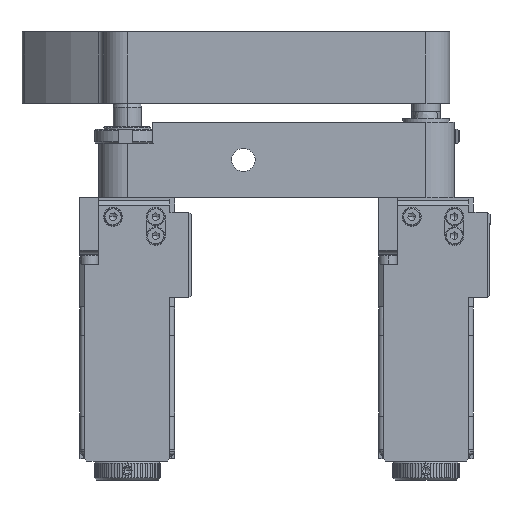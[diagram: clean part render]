
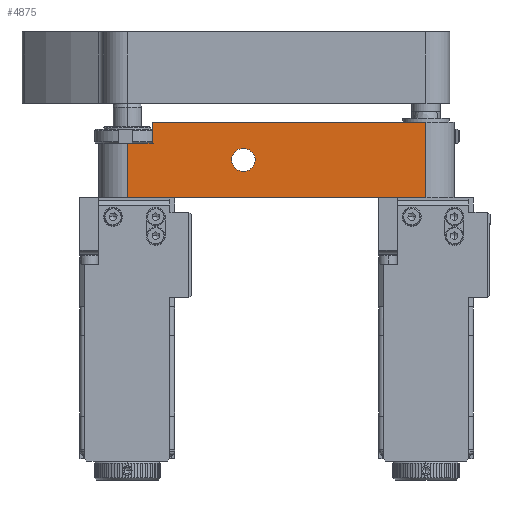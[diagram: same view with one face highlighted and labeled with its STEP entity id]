
A CAD part, left-side view. The second image highlights one B-rep face of the part: STEP entity #4875.
In plain terms, the highlighted planar face has unit normal (-1, 0, 0).
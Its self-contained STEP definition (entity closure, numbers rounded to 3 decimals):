
#332 = DIRECTION ( 'NONE',  ( 0., -1., 0. ) ) ;
#333 = VECTOR ( 'NONE', #332, 1000. ) ;
#334 = CARTESIAN_POINT ( 'NONE',  ( -1.074, -9.038, 0. ) ) ;
#335 = LINE ( 'NONE', #334, #333 ) ;
#379 = CARTESIAN_POINT ( 'NONE',  ( -1.074, 44.981, 11.5 ) ) ;
#380 = DIRECTION ( 'NONE',  ( 0., 1., 0. ) ) ;
#381 = VECTOR ( 'NONE', #380, 1000. ) ;
#382 = CARTESIAN_POINT ( 'NONE',  ( -1.074, -9.038, 11.5 ) ) ;
#383 = LINE ( 'NONE', #382, #381 ) ;
#567 = LINE ( 'NONE', #633, #632 ) ;
#603 = CARTESIAN_POINT ( 'NONE',  ( -1.074, 42.671, 11.5 ) ) ;
#631 = DIRECTION ( 'NONE',  ( 0., 1., 0. ) ) ;
#632 = VECTOR ( 'NONE', #631, 1000. ) ;
#633 = CARTESIAN_POINT ( 'NONE',  ( -1.074, -9.038, 11.5 ) ) ;
#645 = CARTESIAN_POINT ( 'NONE',  ( -1.074, 42.671, 16. ) ) ;
#667 = DIRECTION ( 'NONE',  ( 0., 0., -1. ) ) ;
#668 = VECTOR ( 'NONE', #667, 1000. ) ;
#669 = CARTESIAN_POINT ( 'NONE',  ( -1.074, 42.671, 16. ) ) ;
#670 = LINE ( 'NONE', #669, #668 ) ;
#672 = DIRECTION ( 'NONE',  ( 0., 1., 0. ) ) ;
#673 = VECTOR ( 'NONE', #672, 1000. ) ;
#674 = CARTESIAN_POINT ( 'NONE',  ( -1.074, -15.038, 16. ) ) ;
#675 = LINE ( 'NONE', #674, #673 ) ;
#723 = CARTESIAN_POINT ( 'NONE',  ( -1.074, -15.038, 16. ) ) ;
#1262 = CARTESIAN_POINT ( 'NONE',  ( -1.074, -15.038, 0. ) ) ;
#1290 = DIRECTION ( 'NONE',  ( 0., -1., 0. ) ) ;
#1291 = VECTOR ( 'NONE', #1290, 1000. ) ;
#1292 = CARTESIAN_POINT ( 'NONE',  ( -1.074, -9.038, 0. ) ) ;
#1293 = LINE ( 'NONE', #1292, #1291 ) ;
#4875 = ADVANCED_FACE ( 'NONE', ( #37987, #37985 ), #38118, .T. ) ;
#4877 = EDGE_LOOP ( 'NONE', ( #4878, #4891 ) ) ;
#4878 = ORIENTED_EDGE ( 'NONE', *, *, #4880, .T. ) ;
#4880 = EDGE_CURVE ( 'NONE', #5383, #5382, #38100, .T. ) ;
#4891 = ORIENTED_EDGE ( 'NONE', *, *, #5361, .T. ) ;
#4894 = EDGE_LOOP ( 'NONE', ( #4895, #4896, #4967, #4969, #5034, #5078, #5076, #5014 ) ) ;
#4895 = ORIENTED_EDGE ( 'NONE', *, *, #23053, .T. ) ;
#4896 = ORIENTED_EDGE ( 'NONE', *, *, #23056, .T. ) ;
#4967 = ORIENTED_EDGE ( 'NONE', *, *, #23010, .T. ) ;
#4969 = ORIENTED_EDGE ( 'NONE', *, *, #22905, .T. ) ;
#5009 = EDGE_CURVE ( 'NONE', #23365, #23070, #38490, .T. ) ;
#5014 = ORIENTED_EDGE ( 'NONE', *, *, #5009, .T. ) ;
#5034 = ORIENTED_EDGE ( 'NONE', *, *, #10736, .T. ) ;
#5076 = ORIENTED_EDGE ( 'NONE', *, *, #23385, .T. ) ;
#5078 = ORIENTED_EDGE ( 'NONE', *, *, #22863, .T. ) ;
#5361 = EDGE_CURVE ( 'NONE', #5382, #5383, #39964, .T. ) ;
#5382 = VERTEX_POINT ( 'NONE', #40091 ) ;
#5383 = VERTEX_POINT ( 'NONE', #40090 ) ;
#10736 = EDGE_CURVE ( 'NONE', #10943, #10815, #60163, .T. ) ;
#10815 = VERTEX_POINT ( 'NONE', #60526 ) ;
#10943 = VERTEX_POINT ( 'NONE', #24657 ) ;
#22389 = VERTEX_POINT ( 'NONE', #60812 ) ;
#22863 = EDGE_CURVE ( 'NONE', #10815, #22389, #335, .T. ) ;
#22905 = EDGE_CURVE ( 'NONE', #22906, #10943, #383, .T. ) ;
#22906 = VERTEX_POINT ( 'NONE', #379 ) ;
#23010 = EDGE_CURVE ( 'NONE', #23020, #22906, #567, .T. ) ;
#23020 = VERTEX_POINT ( 'NONE', #603 ) ;
#23037 = VERTEX_POINT ( 'NONE', #645 ) ;
#23053 = EDGE_CURVE ( 'NONE', #23070, #23037, #675, .T. ) ;
#23056 = EDGE_CURVE ( 'NONE', #23037, #23020, #670, .T. ) ;
#23070 = VERTEX_POINT ( 'NONE', #723 ) ;
#23365 = VERTEX_POINT ( 'NONE', #1262 ) ;
#23385 = EDGE_CURVE ( 'NONE', #22389, #23365, #1293, .T. ) ;
#24657 = CARTESIAN_POINT ( 'NONE',  ( -1.074, 47.962, 11.5 ) ) ;
#37985 = FACE_OUTER_BOUND ( 'NONE', #4894, .T. ) ;
#37987 = FACE_BOUND ( 'NONE', #4877, .T. ) ;
#38093 = DIRECTION ( 'NONE',  ( 0., 1., 0. ) ) ;
#38095 = DIRECTION ( 'NONE',  ( 1., 0., 0. ) ) ;
#38097 = CARTESIAN_POINT ( 'NONE',  ( -1.074, 23.462, 8. ) ) ;
#38098 = AXIS2_PLACEMENT_3D ( 'NONE', #38097, #38095, #38093 ) ;
#38100 = CIRCLE ( 'NONE', #38098, 2.458 ) ;
#38114 = DIRECTION ( 'NONE',  ( 0., -1., 0. ) ) ;
#38115 = DIRECTION ( 'NONE',  ( -1., 0., 0. ) ) ;
#38116 = CARTESIAN_POINT ( 'NONE',  ( -1.074, -9.038, 16. ) ) ;
#38117 = AXIS2_PLACEMENT_3D ( 'NONE', #38116, #38115, #38114 ) ;
#38118 = PLANE ( 'NONE',  #38117 ) ;
#38486 = DIRECTION ( 'NONE',  ( 0., 0., 1. ) ) ;
#38487 = VECTOR ( 'NONE', #38486, 1000. ) ;
#38488 = CARTESIAN_POINT ( 'NONE',  ( -1.074, -15.038, 16. ) ) ;
#38490 = LINE ( 'NONE', #38488, #38487 ) ;
#39957 = DIRECTION ( 'NONE',  ( 0., 1., 0. ) ) ;
#39959 = DIRECTION ( 'NONE',  ( 1., 0., 0. ) ) ;
#39960 = CARTESIAN_POINT ( 'NONE',  ( -1.074, 23.462, 8. ) ) ;
#39962 = AXIS2_PLACEMENT_3D ( 'NONE', #39960, #39959, #39957 ) ;
#39964 = CIRCLE ( 'NONE', #39962, 2.458 ) ;
#40090 = CARTESIAN_POINT ( 'NONE',  ( -1.074, 25.921, 8. ) ) ;
#40091 = CARTESIAN_POINT ( 'NONE',  ( -1.074, 21.004, 8. ) ) ;
#60158 = DIRECTION ( 'NONE',  ( 0., 0., -1. ) ) ;
#60159 = VECTOR ( 'NONE', #60158, 1000. ) ;
#60161 = CARTESIAN_POINT ( 'NONE',  ( -1.074, 47.962, 16. ) ) ;
#60163 = LINE ( 'NONE', #60161, #60159 ) ;
#60526 = CARTESIAN_POINT ( 'NONE',  ( -1.074, 47.962, 0. ) ) ;
#60812 = CARTESIAN_POINT ( 'NONE',  ( -1.074, 37.962, 0. ) ) ;
